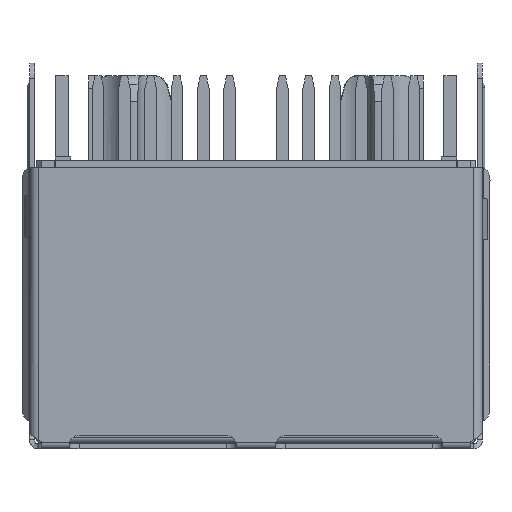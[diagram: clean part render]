
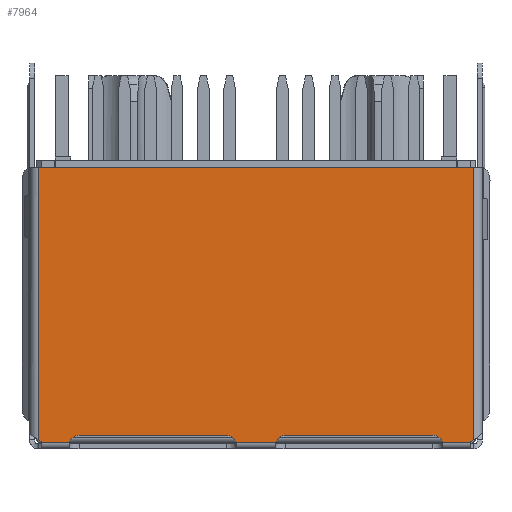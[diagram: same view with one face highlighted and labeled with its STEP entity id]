
A CAD part, front view. The second image highlights one B-rep face of the part: STEP entity #7964.
In plain terms, the highlighted planar face has unit normal (0, -1, 0) as drawn and (1, 0, 0) by its records, which use the part's own axes.
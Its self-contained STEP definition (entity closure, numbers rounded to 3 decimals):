
#1965=CARTESIAN_POINT('',(16.019,7.958,-6.85));
#1966=DIRECTION('',(1.,0.,0.));
#1967=DIRECTION('',(0.,-1.,0.));
#1968=AXIS2_PLACEMENT_3D('',#1965,#1966,#1967);
#1970=DIRECTION('',(0.,-1.,0.));
#1971=VECTOR('',#1970,0.032);
#1972=CARTESIAN_POINT('',(16.019,7.84,-8.32));
#1973=LINE('',#1972,#1971);
#1974=DIRECTION('',(0.,-0.609,-0.793));
#1975=VECTOR('',#1974,0.126);
#1976=CARTESIAN_POINT('',(16.019,7.808,-8.32));
#1977=LINE('',#1976,#1975);
#1978=DIRECTION('',(0.,0.,1.));
#1979=VECTOR('',#1978,16.84);
#1980=CARTESIAN_POINT('',(16.019,-2.812,
-8.42));
#1981=LINE('',#1980,#1979);
#1982=DIRECTION('',(0.,0.609,-0.793));
#1983=VECTOR('',#1982,0.126);
#1984=CARTESIAN_POINT('',(16.019,7.731,8.42));
#1985=LINE('',#1984,#1983);
#1986=DIRECTION('',(0.,1.,0.));
#1987=VECTOR('',#1986,0.032);
#1988=CARTESIAN_POINT('',(16.019,7.808,8.32));
#1989=LINE('',#1988,#1987);
#1990=CARTESIAN_POINT('',(16.019,7.958,6.85));
#1991=DIRECTION('',(1.,0.,0.));
#1992=DIRECTION('',(0.,-0.295,0.956));
#1993=AXIS2_PLACEMENT_3D('',#1990,#1991,#1992);
#1995=DIRECTION('',(0.,0.,-1.));
#1996=VECTOR('',#1995,5.7);
#1997=CARTESIAN_POINT('',(16.019,7.558,6.85));
#1998=LINE('',#1997,#1996);
#1999=CARTESIAN_POINT('',(16.019,7.958,1.15));
#2000=DIRECTION('',(1.,0.,0.));
#2001=DIRECTION('',(0.,-1.,0.));
#2002=AXIS2_PLACEMENT_3D('',#1999,#2000,#2001);
#2004=CARTESIAN_POINT('',(16.019,7.958,-1.15));
#2005=DIRECTION('',(1.,0.,0.));
#2006=DIRECTION('',(0.,-0.295,0.956));
#2007=AXIS2_PLACEMENT_3D('',#2004,#2005,#2006);
#2009=DIRECTION('',(0.,0.,-1.));
#2010=VECTOR('',#2009,5.7);
#2011=CARTESIAN_POINT('',(16.019,7.558,-1.15));
#2012=LINE('',#2011,#2010);
#2677=DIRECTION('',(0.,-1.,0.));
#2678=VECTOR('',#2677,10.543);
#2679=CARTESIAN_POINT('',(16.019,7.731,8.42));
#2680=LINE('',#2679,#2678);
#2774=DIRECTION('',(0.,1.,0.));
#2775=VECTOR('',#2774,10.543);
#2776=CARTESIAN_POINT('',(16.019,-2.812,
-8.42));
#2777=LINE('',#2776,#2775);
#2835=DIRECTION('',(0.,0.,1.));
#2836=VECTOR('',#2835,1.088);
#2837=CARTESIAN_POINT('',(16.019,7.84,-8.32));
#2838=LINE('',#2837,#2836);
#2843=DIRECTION('',(0.,0.,1.));
#2844=VECTOR('',#2843,1.535);
#2845=CARTESIAN_POINT('',(16.019,7.84,
-0.768));
#2846=LINE('',#2845,#2844);
#2881=DIRECTION('',(0.,0.,1.));
#2882=VECTOR('',#2881,1.088);
#2883=CARTESIAN_POINT('',(16.019,7.84,7.232));
#2884=LINE('',#2883,#2882);
#5016=CARTESIAN_POINT('',(16.019,7.808,8.32));
#5017=VERTEX_POINT('',#5016);
#5022=CARTESIAN_POINT('',(16.019,7.84,8.32));
#5023=VERTEX_POINT('',#5022);
#5024=CARTESIAN_POINT('',(16.019,7.731,8.42));
#5025=VERTEX_POINT('',#5024);
#5026=CARTESIAN_POINT('',(16.019,7.558,-6.85));
#5027=CARTESIAN_POINT('',(16.019,7.84,-7.232));
#5028=VERTEX_POINT('',#5026);
#5029=VERTEX_POINT('',#5027);
#5030=CARTESIAN_POINT('',(16.019,7.84,-8.32));
#5031=VERTEX_POINT('',#5030);
#5032=CARTESIAN_POINT('',(16.019,7.808,-8.32));
#5033=VERTEX_POINT('',#5032);
#5034=CARTESIAN_POINT('',(16.019,7.731,-8.42));
#5035=VERTEX_POINT('',#5034);
#5036=CARTESIAN_POINT('',(16.019,-2.812,
-8.42));
#5037=VERTEX_POINT('',#5036);
#5038=CARTESIAN_POINT('',(16.019,-2.812,8.42));
#5039=VERTEX_POINT('',#5038);
#5040=CARTESIAN_POINT('',(16.019,7.84,7.232));
#5041=VERTEX_POINT('',#5040);
#5042=CARTESIAN_POINT('',(16.019,7.558,6.85));
#5043=VERTEX_POINT('',#5042);
#5044=CARTESIAN_POINT('',(16.019,7.558,1.15));
#5045=VERTEX_POINT('',#5044);
#5046=CARTESIAN_POINT('',(16.019,7.84,0.768));
#5047=VERTEX_POINT('',#5046);
#5048=CARTESIAN_POINT('',(16.019,7.84,
-0.768));
#5049=VERTEX_POINT('',#5048);
#5050=CARTESIAN_POINT('',(16.019,7.558,-1.15));
#5051=VERTEX_POINT('',#5050);
#7927=CARTESIAN_POINT('',(16.019,8.053,-8.757));
#7928=DIRECTION('',(-1.,0.,0.));
#7929=DIRECTION('',(0.,-1.,0.));
#7930=AXIS2_PLACEMENT_3D('',#7927,#7928,#7929);
#7931=PLANE('',#7930);
#7933=ORIENTED_EDGE('',*,*,#7932,.T.);
#7935=ORIENTED_EDGE('',*,*,#7934,.F.);
#7937=ORIENTED_EDGE('',*,*,#7936,.T.);
#7939=ORIENTED_EDGE('',*,*,#7938,.T.);
#7941=ORIENTED_EDGE('',*,*,#7940,.F.);
#7943=ORIENTED_EDGE('',*,*,#7942,.T.);
#7945=ORIENTED_EDGE('',*,*,#7944,.F.);
#7946=ORIENTED_EDGE('',*,*,#7919,.T.);
#7947=ORIENTED_EDGE('',*,*,#7907,.T.);
#7949=ORIENTED_EDGE('',*,*,#7948,.F.);
#7951=ORIENTED_EDGE('',*,*,#7950,.T.);
#7953=ORIENTED_EDGE('',*,*,#7952,.T.);
#7955=ORIENTED_EDGE('',*,*,#7954,.T.);
#7957=ORIENTED_EDGE('',*,*,#7956,.F.);
#7959=ORIENTED_EDGE('',*,*,#7958,.T.);
#7961=ORIENTED_EDGE('',*,*,#7960,.T.);
#7962=EDGE_LOOP('',(#7933,#7935,#7937,#7939,#7941,#7943,#7945,#7946,#7947,#7949,
#7951,#7953,#7955,#7957,#7959,#7961));
#7963=FACE_OUTER_BOUND('',#7962,.F.);
#7964=ADVANCED_FACE('',(#7963),#7931,.F.);
#1969=CIRCLE('',#1968,0.4);
#1994=CIRCLE('',#1993,0.4);
#2003=CIRCLE('',#2002,0.4);
#2008=CIRCLE('',#2007,0.4);
#7907=EDGE_CURVE('',#5017,#5023,#1989,.T.);
#7919=EDGE_CURVE('',#5025,#5017,#1985,.T.);
#7932=EDGE_CURVE('',#5028,#5029,#1969,.T.);
#7934=EDGE_CURVE('',#5031,#5029,#2838,.T.);
#7936=EDGE_CURVE('',#5031,#5033,#1973,.T.);
#7938=EDGE_CURVE('',#5033,#5035,#1977,.T.);
#7940=EDGE_CURVE('',#5037,#5035,#2777,.T.);
#7942=EDGE_CURVE('',#5037,#5039,#1981,.T.);
#7944=EDGE_CURVE('',#5025,#5039,#2680,.T.);
#7948=EDGE_CURVE('',#5041,#5023,#2884,.T.);
#7950=EDGE_CURVE('',#5041,#5043,#1994,.T.);
#7952=EDGE_CURVE('',#5043,#5045,#1998,.T.);
#7954=EDGE_CURVE('',#5045,#5047,#2003,.T.);
#7956=EDGE_CURVE('',#5049,#5047,#2846,.T.);
#7958=EDGE_CURVE('',#5049,#5051,#2008,.T.);
#7960=EDGE_CURVE('',#5051,#5028,#2012,.T.);
